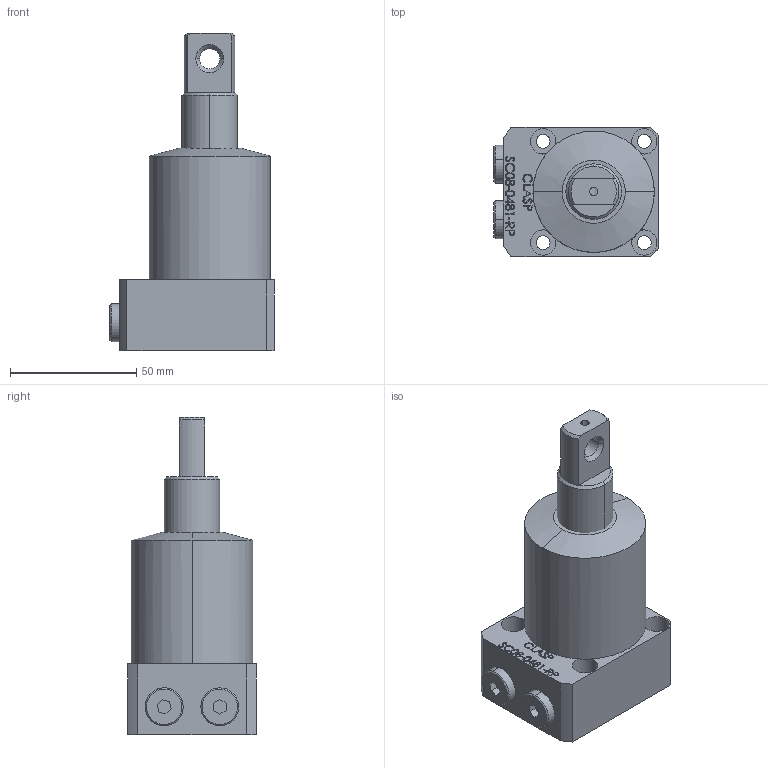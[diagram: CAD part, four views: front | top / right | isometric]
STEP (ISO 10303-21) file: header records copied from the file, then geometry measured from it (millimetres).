
FILE_DESCRIPTION (( 'STEP AP203' ), '1' );
FILE_NAME ('SC08-0481-RP.STEP', '2022-07-08T17:01:08', ( '' ), ( '' ), 'SwSTEP 2.0', 'SolidWorks 2017', '' );
FILE_SCHEMA (( 'CONFIG_CONTROL_DESIGN' ));
Length unit declared in the file: millimetre
Products named in the file (4): SC-08-0481-RP BODY; SC-08-0481-RP-Piston; SC-08-0481-RP-05 plug; SC08-0481-RP
Assembly tree (4 placements, depth 2):
  SC08-0481-RP
    SC-08-0481-RP BODY
    SC-08-0481-RP-Piston
    SC-08-0481-RP-05 plug  x2
Bounding box: 65 x 51 x 125.5 mm (x, y, z)
Volume: 195663.4 mm3; surface area: 30742.4 mm2
Topology: 4 solids, 4 shells, 342 faces, 854 edges, 560 vertices
Faces by surface type: plane 157, bspline 117, cylinder 50, cone 18
Entity records: 16828 total; most frequent: CARTESIAN_POINT 9215, ORIENTED_EDGE 1644, DIRECTION 1142, EDGE_CURVE 822, VERTEX_POINT 540, LINE 456, VECTOR 456, EDGE_LOOP 378
